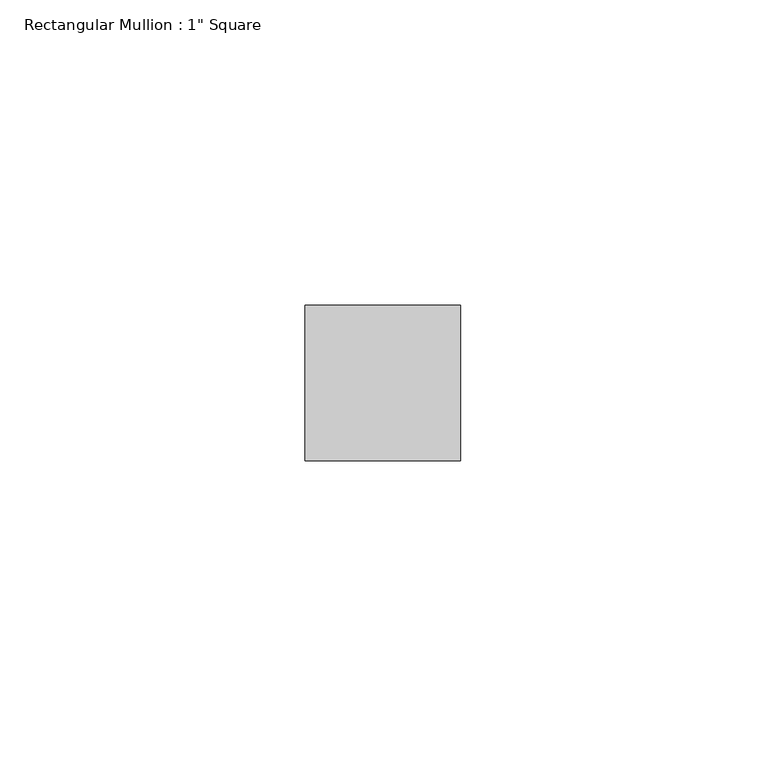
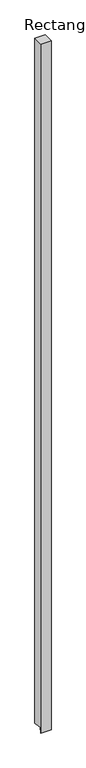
"""IFC4 building model written with IfcOpenShell, lengths in millimetres: member geometry."""

from ifc_helpers import new_model, si_unit, frame, origin, place, context, project, spatial, polyline, outline, extrude, source, transform, mapped, element, save


def member_ad5c1424(model_context):
    return source(origin(), model_context, "Body", "SweptSolid", [
        extrude(outline(polyline([(-12.7, 0.0), (12.7, 0.0), (12.7, -1793.682567), (-10.6498724, -1790.1376276), (-12.7, -1803.6414453), (-12.7, 0.0)])), frame((-25.4, 0.0, 0.0), z_axis=(1.0, 0.0, 0.0), x_axis=(0.0, 1.0, 0.0)), (0.0, 0.0, 1.0), 25.4),
    ])


if __name__ == "__main__":
    model = new_model("IFC4")
    model_context = context("Model", 3, world=origin())
    ifc_project = project(units=[si_unit("LENGTHUNIT", "METRE", prefix="MILLI")], contexts=[model_context])
    site = spatial("IfcSite", under=ifc_project)
    building = spatial("IfcBuilding", under=site)
    placement = place(None, origin())
    member_shape = member_ad5c1424(model_context)
    element("IfcMember", 1, ObjectType="Rectangular Mullion : 1\" Square", at=placement, inside=building, context=model_context, shape_type="MappedRepresentation", body=[
        mapped(member_shape, transform((0.0, 0.0, 0.0), x_axis=(1.0, 0.0, 0.0), y_axis=(0.0, 1.0, 0.0), z_axis=(0.0, 0.0, 1.0))),
    ])
    save(model, "model.ifc")
